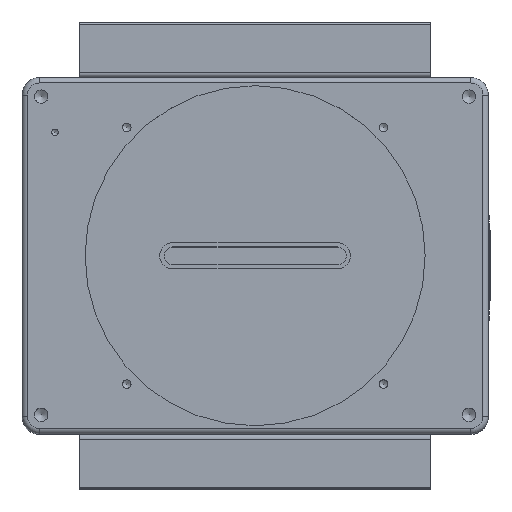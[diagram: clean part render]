
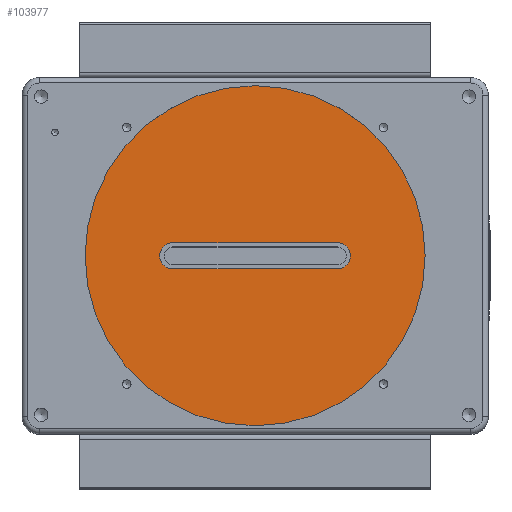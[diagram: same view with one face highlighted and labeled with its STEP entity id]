
A CAD part, top view. The second image highlights one B-rep face of the part: STEP entity #103977.
In plain terms, the highlighted planar face has unit normal (0, 0, 1).
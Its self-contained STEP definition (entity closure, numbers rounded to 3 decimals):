
#100667=CARTESIAN_POINT('',(1.748,-11.934,15.9));
#100668=VERTEX_POINT('',#100667);
#100675=CARTESIAN_POINT('',(1.748,-16.694,15.9));
#100676=VERTEX_POINT('',#100675);
#100677=CARTESIAN_POINT('',(1.748,-14.314,15.9));
#100678=DIRECTION('',(0.0,0.0,-1.0));
#100679=DIRECTION('',(0.0,1.0,0.0));
#100680=AXIS2_PLACEMENT_3D('',#100677,#100678,#100679);
#100681=CIRCLE('',#100680,2.38);
#100682=EDGE_CURVE('',#100676,#100668,#100681,.T.);
#100707=CARTESIAN_POINT('',(31.748,-16.694,15.9));
#100708=VERTEX_POINT('',#100707);
#100709=CARTESIAN_POINT('',(31.748,-16.694,15.9));
#100710=DIRECTION('',(-1.0,0.0,0.0));
#100711=VECTOR('',#100710,30.);
#100712=LINE('',#100709,#100711);
#100713=EDGE_CURVE('',#100708,#100676,#100712,.T.);
#100739=CARTESIAN_POINT('',(31.748,-11.934,15.9));
#100740=VERTEX_POINT('',#100739);
#100741=CARTESIAN_POINT('',(31.748,-14.314,15.9));
#100742=DIRECTION('',(0.0,0.0,-1.0));
#100743=DIRECTION('',(0.0,-1.0,0.0));
#100744=AXIS2_PLACEMENT_3D('',#100741,#100742,#100743);
#100745=CIRCLE('',#100744,2.38);
#100746=EDGE_CURVE('',#100740,#100708,#100745,.T.);
#100769=CARTESIAN_POINT('',(1.748,-11.934,15.9));
#100770=DIRECTION('',(1.0,0.0,0.0));
#100771=VECTOR('',#100770,30.);
#100772=LINE('',#100769,#100771);
#100773=EDGE_CURVE('',#100668,#100740,#100772,.T.);
#103948=CARTESIAN_POINT('',(47.748,-14.314,15.9));
#103949=VERTEX_POINT('',#103948);
#103950=CARTESIAN_POINT('',(16.748,-14.314,15.9));
#103951=DIRECTION('',(0.0,0.0,1.0));
#103952=DIRECTION('',(-1.0,0.0,0.0));
#103953=AXIS2_PLACEMENT_3D('',#103950,#103951,#103952);
#103954=CIRCLE('',#103953,31.0);
#103955=EDGE_CURVE('',#103949,#103949,#103954,.T.);
#103963=CARTESIAN_POINT('',(16.748,-14.314,15.9));
#103964=DIRECTION('',(0.0,0.0,-1.0));
#103965=DIRECTION('',(-1.0,0.0,0.0));
#103966=AXIS2_PLACEMENT_3D('',#103963,#103964,#103965);
#103967=PLANE('',#103966);
#103968=ORIENTED_EDGE('',*,*,#103955,.T.);
#103969=EDGE_LOOP('',(#103968));
#103970=FACE_OUTER_BOUND('',#103969,.T.);
#103971=ORIENTED_EDGE('',*,*,#100682,.T.);
#103972=ORIENTED_EDGE('',*,*,#100773,.T.);
#103973=ORIENTED_EDGE('',*,*,#100746,.T.);
#103974=ORIENTED_EDGE('',*,*,#100713,.T.);
#103975=EDGE_LOOP('',(#103971,#103972,#103973,#103974));
#103976=FACE_BOUND('',#103975,.T.);
#103977=ADVANCED_FACE('',(#103970,#103976),#103967,.F.);
